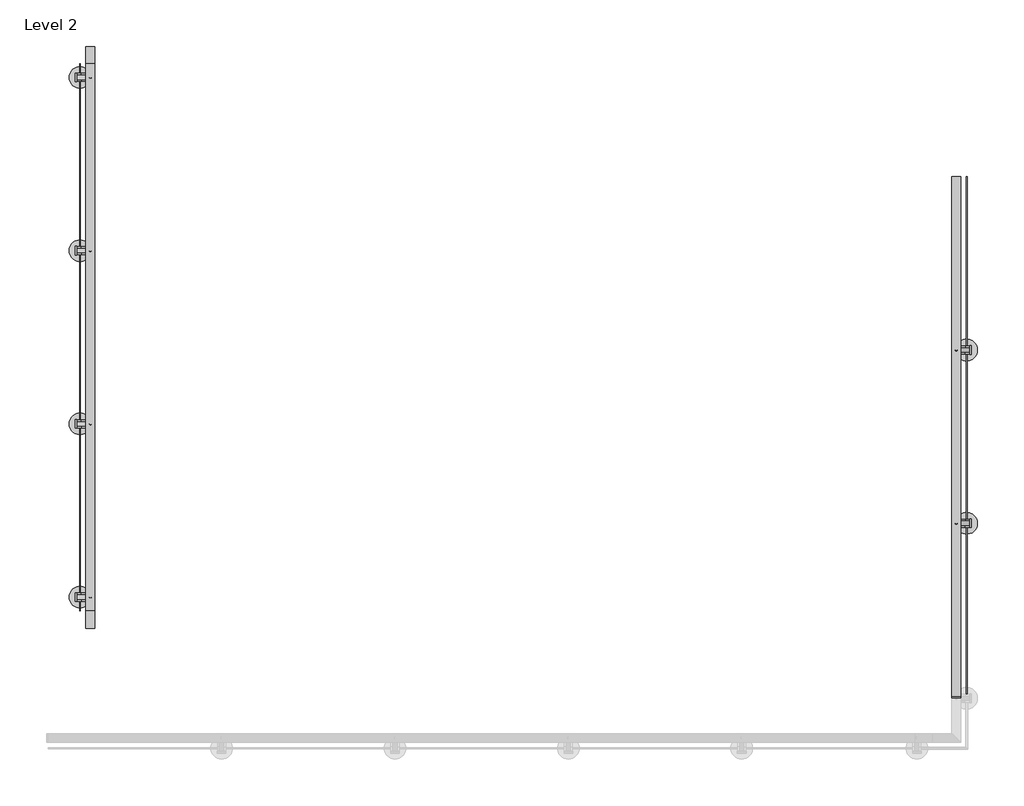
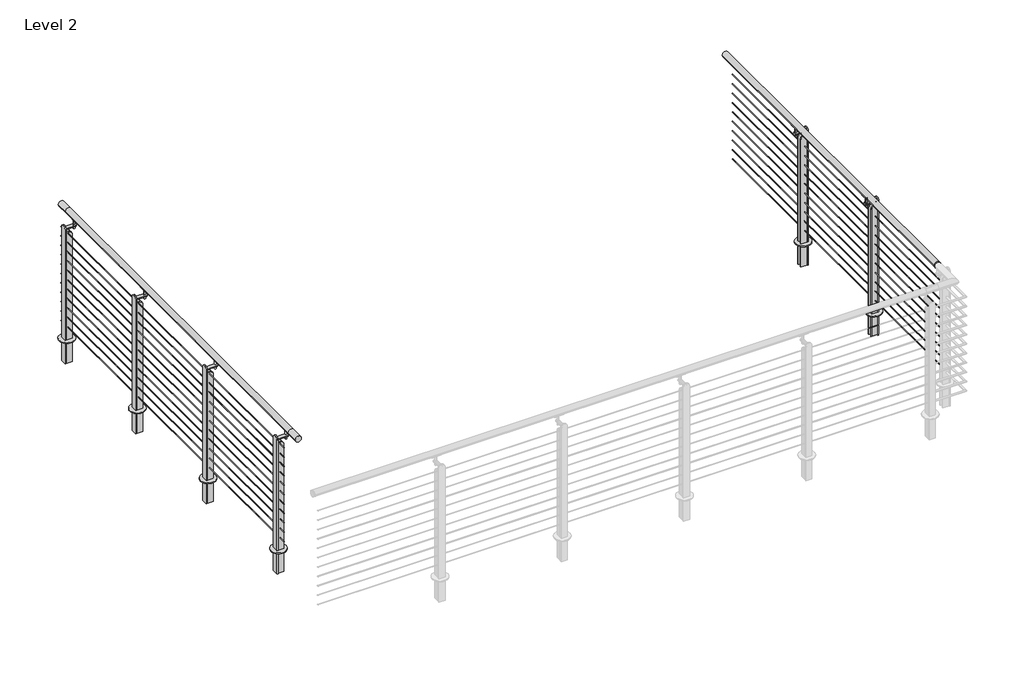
# One storey, part 9 of 12: 2 railings.
"""IFC4 building model written with IfcOpenShell, lengths in millimetres."""

from ifc_helpers import new_model, si_unit, point, frame, frame_2d, origin, place, context, project, spatial, polyline, circle_curve, trimmed, segment, composite_curve, outline, extrude, element, save
from ifc_brep_helpers import plane_surface, cylinder_surface, advanced_brep

model = new_model("IFC4")

# Units and contexts
model_context = context("Model", 3, world=origin())
ifc_project = project(units=[si_unit("LENGTHUNIT", "METRE", prefix="MILLI")], contexts=[model_context])

# Site, building, storey
site = spatial("IfcSite", under=ifc_project)
building = spatial("IfcBuilding", under=site)
storey = spatial("IfcBuildingStorey", under=building, Name="Level 2", Elevation=3048.0)

# Railings
placement = place(None, origin())
element("IfcRailing", 1, ObjectType="VIVA-TEE-Cable-Core Mount-Straight", at=placement, inside=storey, context=model_context, shape_type="SolidModel", body=[
    advanced_brep(
    [(-8848.9177073, -17567.8040223, 4102.1), (-8899.7177073, -17567.8040223, 4102.1), (-8848.9177073, -17466.2040223, 4102.1), (-8899.7177073, -17466.2040223, 4102.1), (-8848.9177073, -14258.7426165, 4102.1), (-8899.7177073, -14258.7426165, 4102.1), (-8848.9177073, -14157.1426165, 4102.1), (-8899.7177073, -14157.1426165, 4102.1)],
    [
        (0, 1, circle_curve(frame((-8874.3177073, -17567.8040223, 4102.1), z_axis=(0.0, -1.0, 0.0), x_axis=(-1.0, 0.0, 0.0)), 25.4)),
        (1, 0, circle_curve(frame((-8874.3177073, -17567.8040223, 4102.1), z_axis=(0.0, -1.0, 0.0), x_axis=(-1.0, 0.0, 0.0)), 25.4)),
        (0, 2),
        (2, 3, circle_curve(frame((-8874.3177073, -17466.2040223, 4102.1), z_axis=(0.0, -1.0, 0.0), x_axis=(-1.0, 0.0, 0.0)), 25.4)),
        (3, 1),
        (3, 2, circle_curve(frame((-8874.3177073, -17466.2040223, 4102.1), z_axis=(0.0, -1.0, 0.0), x_axis=(-1.0, 0.0, 0.0)), 25.4)),
        (2, 4),
        (4, 5, circle_curve(frame((-8874.3177073, -14258.7426165, 4102.1), z_axis=(0.0, -1.0, 0.0), x_axis=(-1.0, 0.0, 0.0)), 25.4)),
        (5, 3),
        (5, 4, circle_curve(frame((-8874.3177073, -14258.7426165, 4102.1), z_axis=(0.0, -1.0, 0.0), x_axis=(-1.0, 0.0, 0.0)), 25.4)),
        (6, 7, circle_curve(frame((-8874.3177073, -14157.1426165, 4102.1), z_axis=(0.0, 1.0, 0.0), x_axis=(-1.0, 0.0, 0.0)), 25.4)),
        (7, 6, circle_curve(frame((-8874.3177073, -14157.1426165, 4102.1), z_axis=(0.0, 1.0, 0.0), x_axis=(-1.0, 0.0, 0.0)), 25.4)),
        (4, 6),
        (7, 5),
    ],
    [
        plane_surface(frame((-8874.3177073, -17567.8040223, 4127.5), z_axis=(0.0, -1.0, 0.0), x_axis=(0.0, 0.0, 1.0))),
        cylinder_surface(frame((-8874.3177073, -17567.8040223, 4102.1), z_axis=(0.0, -1.0, 0.0), x_axis=(-1.0, 0.0, 0.0)), 25.4),
        cylinder_surface(frame((-8874.3177073, -17466.2040223, 4102.1), z_axis=(0.0, -1.0, 0.0), x_axis=(-1.0, 0.0, 0.0)), 25.4),
        plane_surface(frame((-8874.3177073, -14157.1426165, 4127.5), z_axis=(0.0, 1.0, 0.0), x_axis=(0.0, 0.0, 1.0))),
        cylinder_surface(frame((-8874.3177073, -14258.7426165, 4102.1), z_axis=(0.0, -1.0, 0.0), x_axis=(-1.0, 0.0, 0.0)), 25.4),
    ],
    [
        (0, [[1, 2]]),
        (1, [[-1, 3, 4, 5]]),
        (1, [[-2, -5, 6, -3]]),
        (2, [[-4, 7, 8, 9]]),
        (2, [[-6, -9, 10, -7]]),
        (3, [[11, 12]]),
        (4, [[-8, 13, -12, 14]]),
        (4, [[-10, -14, -11, -13]]),
    ],
),
    extrude(outline(composite_curve([segment(trimmed(circle_curve(frame_2d((3985.4124, -8934.6427073)), 2.3876), [point((3985.4124, -8932.2551073))], [point((3985.4124, -8937.0303073))], False, "CARTESIAN"), True, "CONTINUOUS"), segment(trimmed(circle_curve(frame_2d((3985.4124, -8934.6427073)), 2.3876), [point((3985.4124, -8937.0303073))], [point((3985.4124, -8932.2551073))], False, "CARTESIAN"), True, "CONTINUOUS")], self_intersect=False)), frame((0.0, -17466.2040223, 0.0), z_axis=(0.0, 1.0, 0.0), x_axis=(0.0, 0.0, 1.0)), (0.0, 0.0, 1.0), 3207.4614057),
    extrude(outline(composite_curve([segment(trimmed(circle_curve(frame_2d((3902.8624, -8934.6427073)), 2.3876), [point((3902.8624, -8932.2551073))], [point((3902.8624, -8937.0303073))], False, "CARTESIAN"), True, "CONTINUOUS"), segment(trimmed(circle_curve(frame_2d((3902.8624, -8934.6427073)), 2.3876), [point((3902.8624, -8937.0303073))], [point((3902.8624, -8932.2551073))], False, "CARTESIAN"), True, "CONTINUOUS")], self_intersect=False)), frame((0.0, -17466.2040223, 0.0), z_axis=(0.0, 1.0, 0.0), x_axis=(0.0, 0.0, 1.0)), (0.0, 0.0, 1.0), 3207.4614057),
    extrude(outline(composite_curve([segment(trimmed(circle_curve(frame_2d((3820.3124, -8934.6427073)), 2.3876), [point((3820.3124, -8932.2551073))], [point((3820.3124, -8937.0303073))], False, "CARTESIAN"), True, "CONTINUOUS"), segment(trimmed(circle_curve(frame_2d((3820.3124, -8934.6427073)), 2.3876), [point((3820.3124, -8937.0303073))], [point((3820.3124, -8932.2551073))], False, "CARTESIAN"), True, "CONTINUOUS")], self_intersect=False)), frame((0.0, -17466.2040223, 0.0), z_axis=(0.0, 1.0, 0.0), x_axis=(0.0, 0.0, 1.0)), (0.0, 0.0, 1.0), 3207.4614057),
    extrude(outline(composite_curve([segment(trimmed(circle_curve(frame_2d((3737.7624, -8934.6427073)), 2.3876), [point((3737.7624, -8932.2551073))], [point((3737.7624, -8937.0303073))], False, "CARTESIAN"), True, "CONTINUOUS"), segment(trimmed(circle_curve(frame_2d((3737.7624, -8934.6427073)), 2.3876), [point((3737.7624, -8937.0303073))], [point((3737.7624, -8932.2551073))], False, "CARTESIAN"), True, "CONTINUOUS")], self_intersect=False)), frame((0.0, -17466.2040223, 0.0), z_axis=(0.0, 1.0, 0.0), x_axis=(0.0, 0.0, 1.0)), (0.0, 0.0, 1.0), 3207.4614057),
    extrude(outline(composite_curve([segment(trimmed(circle_curve(frame_2d((3655.2124, -8934.6427073)), 2.3876), [point((3655.2124, -8932.2551073))], [point((3655.2124, -8937.0303073))], False, "CARTESIAN"), True, "CONTINUOUS"), segment(trimmed(circle_curve(frame_2d((3655.2124, -8934.6427073)), 2.3876), [point((3655.2124, -8937.0303073))], [point((3655.2124, -8932.2551073))], False, "CARTESIAN"), True, "CONTINUOUS")], self_intersect=False)), frame((0.0, -17466.2040223, 0.0), z_axis=(0.0, 1.0, 0.0), x_axis=(0.0, 0.0, 1.0)), (0.0, 0.0, 1.0), 3207.4614057),
    extrude(outline(composite_curve([segment(trimmed(circle_curve(frame_2d((3572.6624, -8934.6427073)), 2.3876), [point((3572.6624, -8932.2551073))], [point((3572.6624, -8937.0303073))], False, "CARTESIAN"), True, "CONTINUOUS"), segment(trimmed(circle_curve(frame_2d((3572.6624, -8934.6427073)), 2.3876), [point((3572.6624, -8937.0303073))], [point((3572.6624, -8932.2551073))], False, "CARTESIAN"), True, "CONTINUOUS")], self_intersect=False)), frame((0.0, -17466.2040223, 0.0), z_axis=(0.0, 1.0, 0.0), x_axis=(0.0, 0.0, 1.0)), (0.0, 0.0, 1.0), 3207.4614057),
    extrude(outline(composite_curve([segment(trimmed(circle_curve(frame_2d((3490.1124, -8934.6427073)), 2.3876), [point((3490.1124, -8932.2551073))], [point((3490.1124, -8937.0303073))], False, "CARTESIAN"), True, "CONTINUOUS"), segment(trimmed(circle_curve(frame_2d((3490.1124, -8934.6427073)), 2.3876), [point((3490.1124, -8937.0303073))], [point((3490.1124, -8932.2551073))], False, "CARTESIAN"), True, "CONTINUOUS")], self_intersect=False)), frame((0.0, -17466.2040223, 0.0), z_axis=(0.0, 1.0, 0.0), x_axis=(0.0, 0.0, 1.0)), (0.0, 0.0, 1.0), 3207.4614057),
    extrude(outline(composite_curve([segment(trimmed(circle_curve(frame_2d((3407.5624, -8934.6427073)), 2.3876), [point((3407.5624, -8932.2551073))], [point((3407.5624, -8937.0303073))], False, "CARTESIAN"), True, "CONTINUOUS"), segment(trimmed(circle_curve(frame_2d((3407.5624, -8934.6427073)), 2.3876), [point((3407.5624, -8937.0303073))], [point((3407.5624, -8932.2551073))], False, "CARTESIAN"), True, "CONTINUOUS")], self_intersect=False)), frame((0.0, -17466.2040223, 0.0), z_axis=(0.0, 1.0, 0.0), x_axis=(0.0, 0.0, 1.0)), (0.0, 0.0, 1.0), 3207.4614057),
    extrude(outline(composite_curve([segment(trimmed(circle_curve(frame_2d((3325.0124, -8934.6427073)), 2.3876), [point((3325.0124, -8932.2551073))], [point((3325.0124, -8937.0303073))], False, "CARTESIAN"), True, "CONTINUOUS"), segment(trimmed(circle_curve(frame_2d((3325.0124, -8934.6427073)), 2.3876), [point((3325.0124, -8937.0303073))], [point((3325.0124, -8932.2551073))], False, "CARTESIAN"), True, "CONTINUOUS")], self_intersect=False)), frame((0.0, -17466.2040223, 0.0), z_axis=(0.0, 1.0, 0.0), x_axis=(0.0, 0.0, 1.0)), (0.0, 0.0, 1.0), 3207.4614057),
    extrude(outline(composite_curve([segment(trimmed(circle_curve(frame_2d((3242.4624, -8934.6427073)), 2.3876), [point((3242.4624, -8932.2551073))], [point((3242.4624, -8937.0303073))], False, "CARTESIAN"), True, "CONTINUOUS"), segment(trimmed(circle_curve(frame_2d((3242.4624, -8934.6427073)), 2.3876), [point((3242.4624, -8937.0303073))], [point((3242.4624, -8932.2551073))], False, "CARTESIAN"), True, "CONTINUOUS")], self_intersect=False)), frame((0.0, -17466.2040223, 0.0), z_axis=(0.0, 1.0, 0.0), x_axis=(0.0, 0.0, 1.0)), (0.0, 0.0, 1.0), 3207.4614057),
    extrude(outline(composite_curve([segment(trimmed(circle_curve(frame_2d((3159.9124, -8934.6427073)), 2.3876), [point((3159.9124, -8932.2551073))], [point((3159.9124, -8937.0303073))], False, "CARTESIAN"), True, "CONTINUOUS"), segment(trimmed(circle_curve(frame_2d((3159.9124, -8934.6427073)), 2.3876), [point((3159.9124, -8937.0303073))], [point((3159.9124, -8932.2551073))], False, "CARTESIAN"), True, "CONTINUOUS")], self_intersect=False)), frame((0.0, -17466.2040223, 0.0), z_axis=(0.0, 1.0, 0.0), x_axis=(0.0, 0.0, 1.0)), (0.0, 0.0, 1.0), 3207.4614057),
    extrude(outline(composite_curve([segment(trimmed(circle_curve(frame_2d((0.0, -7.0)), 7.0), [point((0.0, -14.0))], [point((0.0, 0.0))], False, "CARTESIAN"), True, "CONTINUOUS"), segment(trimmed(circle_curve(frame_2d((0.0, -7.0)), 7.0), [point((0.0, 0.0))], [point((0.0, -14.0))], False, "CARTESIAN"), True, "CONTINUOUS")], self_intersect=False)), frame((-8881.0275611, -14338.3996095, 3997.1832524), z_axis=(0.0, 0.004253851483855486, 0.9999909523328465), x_axis=(0.0, 0.9999909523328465, -0.004253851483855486)), (0.0, 0.0, 1.0), 75.97),
    extrude(outline(composite_curve([segment(polyline([(4081.7916463, -8887.4157453), (4080.7742593, -8888.4421349)]), True, "CONTINUOUS"), segment(trimmed(circle_curve(frame_2d((4079.7089374, -8887.3861571)), 1.5), [point((4080.7742593, -8888.4421349))], [point((4078.5780156, -8888.3715585))], False, "CARTESIAN"), True, "CONTINUOUS"), segment(trimmed(circle_curve(frame_2d((4095.2025651, -8873.8861571)), 22.05), [point((4078.5780156, -8888.3715585))], [point((4078.5780156, -8859.4007556))], False, "CARTESIAN"), True, "CONTINUOUS"), segment(trimmed(circle_curve(frame_2d((4079.7089374, -8860.3861571)), 1.5), [point((4078.5780156, -8859.4007556))], [point((4080.7742593, -8859.3301792))], False, "CARTESIAN"), True, "CONTINUOUS"), segment(polyline([(4080.7742593, -8859.3301792), (4081.7916463, -8860.3565688)]), True, "CONTINUOUS"), segment(trimmed(circle_curve(frame_2d((4095.2025651, -8873.8861571)), 19.05), [point((4081.7916463, -8860.3565688))], [point((4081.7916463, -8887.4157453))], True, "CARTESIAN"), True, "CONTINUOUS")], self_intersect=False)), frame((0.0, -14373.9380837, 0.0), z_axis=(0.0, 1.0, 0.0), x_axis=(0.0, 0.0, 1.0)), (0.0, 0.0, 1.0), 74.5229187),
    extrude(outline(composite_curve([segment(trimmed(circle_curve(frame_2d((-14338.195279, 4024.1259188)), 12.5), [point((-14350.695279, 4024.1259188))], [point((-14325.695279, 4024.1259188))], False, "CARTESIAN"), True, "CONTINUOUS"), segment(trimmed(circle_curve(frame_2d((-14338.195279, 4024.1259188)), 12.5), [point((-14325.695279, 4024.1259188))], [point((-14350.695279, 4024.1259188))], False, "CARTESIAN"), True, "CONTINUOUS")], self_intersect=False)), frame((-8953.793547, 0.0, 0.0), z_axis=(1.0, 0.0, 0.0), x_axis=(0.0, 1.0, 0.0)), (0.0, 0.0, 1.0), 92.423),
    extrude(outline(composite_curve([segment(trimmed(circle_curve(frame_2d((-8934.6427073, -14338.0764444)), 63.5), [point((-8998.1427073, -14338.0764444))], [point((-8871.1427073, -14338.0764444))], False, "CARTESIAN"), True, "CONTINUOUS"), segment(trimmed(circle_curve(frame_2d((-8934.6427073, -14338.0764444)), 63.5), [point((-8871.1427073, -14338.0764444))], [point((-8998.1427073, -14338.0764444))], False, "CARTESIAN"), True, "CONTINUOUS")], self_intersect=False)), frame((0.0, 0.0, 3048.0), z_axis=(0.0, 0.0, 1.0), x_axis=(1.0, 0.0, 0.0)), (0.0, 0.0, 1.0), 6.35),
    extrude(outline(composite_curve([segment(polyline([(3997.0075, -8927.6272558), (3997.0075, -8953.6927073), (2851.15, -8953.6927073), (2851.15, -8902.8622558), (3972.2425, -8902.8622558)]), True, "CONTINUOUS"), segment(trimmed(circle_curve(frame_2d((3972.2425, -8927.6272558)), 24.765), [point((3972.2425, -8902.8622558))], [point((3997.0075, -8927.6272558))], False, "CARTESIAN"), True, "CONTINUOUS")], self_intersect=False)), frame((0.0, -14324.0729448, 0.0), z_axis=(0.0, 1.0, 0.0), x_axis=(0.0, 0.0, 1.0)), (0.0, 0.0, 1.0), 9.525),
    extrude(outline(composite_curve([segment(polyline([(-14312.6764444, 2851.15), (-14363.4764444, 2851.15), (-14363.4764444, 4027.17)]), True, "CONTINUOUS"), segment(trimmed(circle_curve(frame_2d((-14338.0764444, 4027.17)), 25.4), [point((-14363.4764444, 4027.17))], [point((-14312.6764444, 4027.17))], False, "CARTESIAN"), True, "CONTINUOUS"), segment(polyline([(-14312.6764444, 4027.17), (-14312.6764444, 2851.15)]), True, "CONTINUOUS")], self_intersect=False)), frame((-8963.2177073, 0.0, 0.0), z_axis=(1.0, 0.0, 0.0), x_axis=(0.0, 1.0, 0.0)), (0.0, 0.0, 1.0), 9.525),
    extrude(outline(composite_curve([segment(polyline([(3997.0075, -8927.6272558), (3997.0075, -8953.6927073), (2851.15, -8953.6927073), (2851.15, -8902.8622558), (3972.2425, -8902.8622558)]), True, "CONTINUOUS"), segment(trimmed(circle_curve(frame_2d((3972.2425, -8927.6272558)), 24.765), [point((3972.2425, -8902.8622558))], [point((3997.0075, -8927.6272558))], False, "CARTESIAN"), True, "CONTINUOUS")], self_intersect=False)), frame((0.0, -14361.604944, 0.0), z_axis=(0.0, 1.0, 0.0), x_axis=(0.0, 0.0, 1.0)), (0.0, 0.0, 1.0), 9.525),
    extrude(outline(composite_curve([segment(trimmed(circle_curve(frame_2d((0.0, -7.0)), 7.0), [point((0.0, -14.0))], [point((0.0, 0.0))], False, "CARTESIAN"), True, "CONTINUOUS"), segment(trimmed(circle_curve(frame_2d((0.0, -7.0)), 7.0), [point((0.0, 0.0))], [point((0.0, -14.0))], False, "CARTESIAN"), True, "CONTINUOUS")], self_intersect=False)), frame((-8881.0275611, -15354.3996095, 3997.1832524), z_axis=(0.0, 0.004253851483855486, 0.9999909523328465), x_axis=(0.0, 0.9999909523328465, -0.004253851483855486)), (0.0, 0.0, 1.0), 75.97),
    extrude(outline(composite_curve([segment(polyline([(4081.7916463, -8887.4157453), (4080.7742593, -8888.4421349)]), True, "CONTINUOUS"), segment(trimmed(circle_curve(frame_2d((4079.7089374, -8887.3861571)), 1.5), [point((4080.7742593, -8888.4421349))], [point((4078.5780156, -8888.3715585))], False, "CARTESIAN"), True, "CONTINUOUS"), segment(trimmed(circle_curve(frame_2d((4095.2025651, -8873.8861571)), 22.05), [point((4078.5780156, -8888.3715585))], [point((4078.5780156, -8859.4007556))], False, "CARTESIAN"), True, "CONTINUOUS"), segment(trimmed(circle_curve(frame_2d((4079.7089374, -8860.3861571)), 1.5), [point((4078.5780156, -8859.4007556))], [point((4080.7742593, -8859.3301792))], False, "CARTESIAN"), True, "CONTINUOUS"), segment(polyline([(4080.7742593, -8859.3301792), (4081.7916463, -8860.3565688)]), True, "CONTINUOUS"), segment(trimmed(circle_curve(frame_2d((4095.2025651, -8873.8861571)), 19.05), [point((4081.7916463, -8860.3565688))], [point((4081.7916463, -8887.4157453))], True, "CARTESIAN"), True, "CONTINUOUS")], self_intersect=False)), frame((0.0, -15389.9380837, 0.0), z_axis=(0.0, 1.0, 0.0), x_axis=(0.0, 0.0, 1.0)), (0.0, 0.0, 1.0), 74.5229187),
    extrude(outline(composite_curve([segment(trimmed(circle_curve(frame_2d((-15354.195279, 4024.1259188)), 12.5), [point((-15366.695279, 4024.1259188))], [point((-15341.695279, 4024.1259188))], False, "CARTESIAN"), True, "CONTINUOUS"), segment(trimmed(circle_curve(frame_2d((-15354.195279, 4024.1259188)), 12.5), [point((-15341.695279, 4024.1259188))], [point((-15366.695279, 4024.1259188))], False, "CARTESIAN"), True, "CONTINUOUS")], self_intersect=False)), frame((-8953.793547, 0.0, 0.0), z_axis=(1.0, 0.0, 0.0), x_axis=(0.0, 1.0, 0.0)), (0.0, 0.0, 1.0), 92.423),
    extrude(outline(composite_curve([segment(trimmed(circle_curve(frame_2d((-8934.6427073, -15354.0764444)), 63.5), [point((-8998.1427073, -15354.0764444))], [point((-8871.1427073, -15354.0764444))], False, "CARTESIAN"), True, "CONTINUOUS"), segment(trimmed(circle_curve(frame_2d((-8934.6427073, -15354.0764444)), 63.5), [point((-8871.1427073, -15354.0764444))], [point((-8998.1427073, -15354.0764444))], False, "CARTESIAN"), True, "CONTINUOUS")], self_intersect=False)), frame((0.0, 0.0, 3048.0), z_axis=(0.0, 0.0, 1.0), x_axis=(1.0, 0.0, 0.0)), (0.0, 0.0, 1.0), 6.35),
    extrude(outline(composite_curve([segment(polyline([(3997.0075, -8927.6272558), (3997.0075, -8953.6927073), (2851.15, -8953.6927073), (2851.15, -8902.8622558), (3972.2425, -8902.8622558)]), True, "CONTINUOUS"), segment(trimmed(circle_curve(frame_2d((3972.2425, -8927.6272558)), 24.765), [point((3972.2425, -8902.8622558))], [point((3997.0075, -8927.6272558))], False, "CARTESIAN"), True, "CONTINUOUS")], self_intersect=False)), frame((0.0, -15340.0729448, 0.0), z_axis=(0.0, 1.0, 0.0), x_axis=(0.0, 0.0, 1.0)), (0.0, 0.0, 1.0), 9.525),
    extrude(outline(composite_curve([segment(polyline([(-15328.6764444, 2851.15), (-15379.4764444, 2851.15), (-15379.4764444, 4027.17)]), True, "CONTINUOUS"), segment(trimmed(circle_curve(frame_2d((-15354.0764444, 4027.17)), 25.4), [point((-15379.4764444, 4027.17))], [point((-15328.6764444, 4027.17))], False, "CARTESIAN"), True, "CONTINUOUS"), segment(polyline([(-15328.6764444, 4027.17), (-15328.6764444, 2851.15)]), True, "CONTINUOUS")], self_intersect=False)), frame((-8963.2177073, 0.0, 0.0), z_axis=(1.0, 0.0, 0.0), x_axis=(0.0, 1.0, 0.0)), (0.0, 0.0, 1.0), 9.525),
    extrude(outline(composite_curve([segment(polyline([(3997.0075, -8927.6272558), (3997.0075, -8953.6927073), (2851.15, -8953.6927073), (2851.15, -8902.8622558), (3972.2425, -8902.8622558)]), True, "CONTINUOUS"), segment(trimmed(circle_curve(frame_2d((3972.2425, -8927.6272558)), 24.765), [point((3972.2425, -8902.8622558))], [point((3997.0075, -8927.6272558))], False, "CARTESIAN"), True, "CONTINUOUS")], self_intersect=False)), frame((0.0, -15377.604944, 0.0), z_axis=(0.0, 1.0, 0.0), x_axis=(0.0, 0.0, 1.0)), (0.0, 0.0, 1.0), 9.525),
    extrude(outline(composite_curve([segment(trimmed(circle_curve(frame_2d((0.0, -7.0)), 7.0), [point((0.0, -14.0))], [point((0.0, 0.0))], False, "CARTESIAN"), True, "CONTINUOUS"), segment(trimmed(circle_curve(frame_2d((0.0, -7.0)), 7.0), [point((0.0, 0.0))], [point((0.0, -14.0))], False, "CARTESIAN"), True, "CONTINUOUS")], self_intersect=False)), frame((-8881.0275611, -16370.3996095, 3997.1832524), z_axis=(0.0, 0.004253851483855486, 0.9999909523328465), x_axis=(0.0, 0.9999909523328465, -0.004253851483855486)), (0.0, 0.0, 1.0), 75.97),
    extrude(outline(composite_curve([segment(polyline([(4081.7916463, -8887.4157453), (4080.7742593, -8888.4421349)]), True, "CONTINUOUS"), segment(trimmed(circle_curve(frame_2d((4079.7089374, -8887.3861571)), 1.5), [point((4080.7742593, -8888.4421349))], [point((4078.5780156, -8888.3715585))], False, "CARTESIAN"), True, "CONTINUOUS"), segment(trimmed(circle_curve(frame_2d((4095.2025651, -8873.8861571)), 22.05), [point((4078.5780156, -8888.3715585))], [point((4078.5780156, -8859.4007556))], False, "CARTESIAN"), True, "CONTINUOUS"), segment(trimmed(circle_curve(frame_2d((4079.7089374, -8860.3861571)), 1.5), [point((4078.5780156, -8859.4007556))], [point((4080.7742593, -8859.3301792))], False, "CARTESIAN"), True, "CONTINUOUS"), segment(polyline([(4080.7742593, -8859.3301792), (4081.7916463, -8860.3565688)]), True, "CONTINUOUS"), segment(trimmed(circle_curve(frame_2d((4095.2025651, -8873.8861571)), 19.05), [point((4081.7916463, -8860.3565688))], [point((4081.7916463, -8887.4157453))], True, "CARTESIAN"), True, "CONTINUOUS")], self_intersect=False)), frame((0.0, -16405.9380837, 0.0), z_axis=(0.0, 1.0, 0.0), x_axis=(0.0, 0.0, 1.0)), (0.0, 0.0, 1.0), 74.5229187),
    extrude(outline(composite_curve([segment(trimmed(circle_curve(frame_2d((-16370.195279, 4024.1259188)), 12.5), [point((-16382.695279, 4024.1259188))], [point((-16357.695279, 4024.1259188))], False, "CARTESIAN"), True, "CONTINUOUS"), segment(trimmed(circle_curve(frame_2d((-16370.195279, 4024.1259188)), 12.5), [point((-16357.695279, 4024.1259188))], [point((-16382.695279, 4024.1259188))], False, "CARTESIAN"), True, "CONTINUOUS")], self_intersect=False)), frame((-8953.793547, 0.0, 0.0), z_axis=(1.0, 0.0, 0.0), x_axis=(0.0, 1.0, 0.0)), (0.0, 0.0, 1.0), 92.423),
    extrude(outline(composite_curve([segment(trimmed(circle_curve(frame_2d((-8934.6427073, -16370.0764444)), 63.5), [point((-8998.1427073, -16370.0764444))], [point((-8871.1427073, -16370.0764444))], False, "CARTESIAN"), True, "CONTINUOUS"), segment(trimmed(circle_curve(frame_2d((-8934.6427073, -16370.0764444)), 63.5), [point((-8871.1427073, -16370.0764444))], [point((-8998.1427073, -16370.0764444))], False, "CARTESIAN"), True, "CONTINUOUS")], self_intersect=False)), frame((0.0, 0.0, 3048.0), z_axis=(0.0, 0.0, 1.0), x_axis=(1.0, 0.0, 0.0)), (0.0, 0.0, 1.0), 6.35),
    extrude(outline(composite_curve([segment(polyline([(3997.0075, -8927.6272558), (3997.0075, -8953.6927073), (2851.15, -8953.6927073), (2851.15, -8902.8622558), (3972.2425, -8902.8622558)]), True, "CONTINUOUS"), segment(trimmed(circle_curve(frame_2d((3972.2425, -8927.6272558)), 24.765), [point((3972.2425, -8902.8622558))], [point((3997.0075, -8927.6272558))], False, "CARTESIAN"), True, "CONTINUOUS")], self_intersect=False)), frame((0.0, -16356.0729448, 0.0), z_axis=(0.0, 1.0, 0.0), x_axis=(0.0, 0.0, 1.0)), (0.0, 0.0, 1.0), 9.525),
    extrude(outline(composite_curve([segment(polyline([(-16344.6764444, 2851.15), (-16395.4764444, 2851.15), (-16395.4764444, 4027.17)]), True, "CONTINUOUS"), segment(trimmed(circle_curve(frame_2d((-16370.0764444, 4027.17)), 25.4), [point((-16395.4764444, 4027.17))], [point((-16344.6764444, 4027.17))], False, "CARTESIAN"), True, "CONTINUOUS"), segment(polyline([(-16344.6764444, 4027.17), (-16344.6764444, 2851.15)]), True, "CONTINUOUS")], self_intersect=False)), frame((-8963.2177073, 0.0, 0.0), z_axis=(1.0, 0.0, 0.0), x_axis=(0.0, 1.0, 0.0)), (0.0, 0.0, 1.0), 9.525),
    extrude(outline(composite_curve([segment(polyline([(3997.0075, -8927.6272558), (3997.0075, -8953.6927073), (2851.15, -8953.6927073), (2851.15, -8902.8622558), (3972.2425, -8902.8622558)]), True, "CONTINUOUS"), segment(trimmed(circle_curve(frame_2d((3972.2425, -8927.6272558)), 24.765), [point((3972.2425, -8902.8622558))], [point((3997.0075, -8927.6272558))], False, "CARTESIAN"), True, "CONTINUOUS")], self_intersect=False)), frame((0.0, -16393.604944, 0.0), z_axis=(0.0, 1.0, 0.0), x_axis=(0.0, 0.0, 1.0)), (0.0, 0.0, 1.0), 9.525),
    extrude(outline(composite_curve([segment(trimmed(circle_curve(frame_2d((0.0, -7.0)), 7.0), [point((0.0, -14.0))], [point((0.0, 0.0))], False, "CARTESIAN"), True, "CONTINUOUS"), segment(trimmed(circle_curve(frame_2d((0.0, -7.0)), 7.0), [point((0.0, 0.0))], [point((0.0, -14.0))], False, "CARTESIAN"), True, "CONTINUOUS")], self_intersect=False)), frame((-8881.0275611, -17386.3996095, 3997.1832524), z_axis=(0.0, 0.004253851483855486, 0.9999909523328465), x_axis=(0.0, 0.9999909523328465, -0.004253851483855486)), (0.0, 0.0, 1.0), 75.97),
    extrude(outline(composite_curve([segment(polyline([(4081.7916463, -8887.4157453), (4080.7742593, -8888.4421349)]), True, "CONTINUOUS"), segment(trimmed(circle_curve(frame_2d((4079.7089374, -8887.3861571)), 1.5), [point((4080.7742593, -8888.4421349))], [point((4078.5780156, -8888.3715585))], False, "CARTESIAN"), True, "CONTINUOUS"), segment(trimmed(circle_curve(frame_2d((4095.2025651, -8873.8861571)), 22.05), [point((4078.5780156, -8888.3715585))], [point((4078.5780156, -8859.4007556))], False, "CARTESIAN"), True, "CONTINUOUS"), segment(trimmed(circle_curve(frame_2d((4079.7089374, -8860.3861571)), 1.5), [point((4078.5780156, -8859.4007556))], [point((4080.7742593, -8859.3301792))], False, "CARTESIAN"), True, "CONTINUOUS"), segment(polyline([(4080.7742593, -8859.3301792), (4081.7916463, -8860.3565688)]), True, "CONTINUOUS"), segment(trimmed(circle_curve(frame_2d((4095.2025651, -8873.8861571)), 19.05), [point((4081.7916463, -8860.3565688))], [point((4081.7916463, -8887.4157453))], True, "CARTESIAN"), True, "CONTINUOUS")], self_intersect=False)), frame((0.0, -17421.9380837, 0.0), z_axis=(0.0, 1.0, 0.0), x_axis=(0.0, 0.0, 1.0)), (0.0, 0.0, 1.0), 74.5229187),
    extrude(outline(composite_curve([segment(trimmed(circle_curve(frame_2d((-17386.195279, 4024.1259188)), 12.5), [point((-17398.695279, 4024.1259188))], [point((-17373.695279, 4024.1259188))], False, "CARTESIAN"), True, "CONTINUOUS"), segment(trimmed(circle_curve(frame_2d((-17386.195279, 4024.1259188)), 12.5), [point((-17373.695279, 4024.1259188))], [point((-17398.695279, 4024.1259188))], False, "CARTESIAN"), True, "CONTINUOUS")], self_intersect=False)), frame((-8953.793547, 0.0, 0.0), z_axis=(1.0, 0.0, 0.0), x_axis=(0.0, 1.0, 0.0)), (0.0, 0.0, 1.0), 92.423),
    extrude(outline(composite_curve([segment(trimmed(circle_curve(frame_2d((-8934.6427073, -17386.0764444)), 63.5), [point((-8998.1427073, -17386.0764444))], [point((-8871.1427073, -17386.0764444))], False, "CARTESIAN"), True, "CONTINUOUS"), segment(trimmed(circle_curve(frame_2d((-8934.6427073, -17386.0764444)), 63.5), [point((-8871.1427073, -17386.0764444))], [point((-8998.1427073, -17386.0764444))], False, "CARTESIAN"), True, "CONTINUOUS")], self_intersect=False)), frame((0.0, 0.0, 3048.0), z_axis=(0.0, 0.0, 1.0), x_axis=(1.0, 0.0, 0.0)), (0.0, 0.0, 1.0), 6.35),
    extrude(outline(composite_curve([segment(polyline([(3997.0075, -8927.6272558), (3997.0075, -8953.6927073), (2851.15, -8953.6927073), (2851.15, -8902.8622558), (3972.2425, -8902.8622558)]), True, "CONTINUOUS"), segment(trimmed(circle_curve(frame_2d((3972.2425, -8927.6272558)), 24.765), [point((3972.2425, -8902.8622558))], [point((3997.0075, -8927.6272558))], False, "CARTESIAN"), True, "CONTINUOUS")], self_intersect=False)), frame((0.0, -17372.0729448, 0.0), z_axis=(0.0, 1.0, 0.0), x_axis=(0.0, 0.0, 1.0)), (0.0, 0.0, 1.0), 9.525),
    extrude(outline(composite_curve([segment(polyline([(-17360.6764444, 2851.15), (-17411.4764444, 2851.15), (-17411.4764444, 4027.17)]), True, "CONTINUOUS"), segment(trimmed(circle_curve(frame_2d((-17386.0764444, 4027.17)), 25.4), [point((-17411.4764444, 4027.17))], [point((-17360.6764444, 4027.17))], False, "CARTESIAN"), True, "CONTINUOUS"), segment(polyline([(-17360.6764444, 4027.17), (-17360.6764444, 2851.15)]), True, "CONTINUOUS")], self_intersect=False)), frame((-8963.2177073, 0.0, 0.0), z_axis=(1.0, 0.0, 0.0), x_axis=(0.0, 1.0, 0.0)), (0.0, 0.0, 1.0), 9.525),
    extrude(outline(composite_curve([segment(polyline([(3997.0075, -8927.6272558), (3997.0075, -8953.6927073), (2851.15, -8953.6927073), (2851.15, -8902.8622558), (3972.2425, -8902.8622558)]), True, "CONTINUOUS"), segment(trimmed(circle_curve(frame_2d((3972.2425, -8927.6272558)), 24.765), [point((3972.2425, -8902.8622558))], [point((3997.0075, -8927.6272558))], False, "CARTESIAN"), True, "CONTINUOUS")], self_intersect=False)), frame((0.0, -17409.604944, 0.0), z_axis=(0.0, 1.0, 0.0), x_axis=(0.0, 0.0, 1.0)), (0.0, 0.0, 1.0), 9.525),
])
element("IfcRailing", 2, ObjectType="VIVA-TEE-Cable-Core Mount-Straight", at=placement, inside=storey, context=model_context, shape_type="SolidModel", body=[
    advanced_brep(
    [(-3773.5247163, -17979.8426165, 4102.1), (-3824.3247163, -17979.8426165, 4102.1), (-3773.5247163, -17969.410992, 4102.1), (-3824.3247163, -17969.410992, 4102.1), (-3773.5247163, -14921.410992, 4102.1), (-3824.3247163, -14921.410992, 4102.1)],
    [
        (0, 1, circle_curve(frame((-3798.9247163, -17979.8426165, 4102.1), z_axis=(0.0, -1.0, 0.0), x_axis=(-1.0, 0.0, 0.0)), 25.4)),
        (1, 0, circle_curve(frame((-3798.9247163, -17979.8426165, 4102.1), z_axis=(0.0, -1.0, 0.0), x_axis=(-1.0, 0.0, 0.0)), 25.4)),
        (0, 2),
        (2, 3, circle_curve(frame((-3798.9247163, -17969.410992, 4102.1), z_axis=(0.0, -1.0, 0.0), x_axis=(-1.0, 0.0, 0.0)), 25.4)),
        (3, 1),
        (3, 2, circle_curve(frame((-3798.9247163, -17969.410992, 4102.1), z_axis=(0.0, -1.0, 0.0), x_axis=(-1.0, 0.0, 0.0)), 25.4)),
        (4, 5, circle_curve(frame((-3798.9247163, -14921.410992, 4102.1), z_axis=(0.0, 1.0, 0.0), x_axis=(-1.0, 0.0, 0.0)), 25.4)),
        (5, 4, circle_curve(frame((-3798.9247163, -14921.410992, 4102.1), z_axis=(0.0, 1.0, 0.0), x_axis=(-1.0, 0.0, 0.0)), 25.4)),
        (2, 4),
        (5, 3),
    ],
    [
        plane_surface(frame((-3798.9247163, -17979.8426165, 4127.5), z_axis=(0.0, -1.0, 0.0), x_axis=(0.0, 0.0, 1.0))),
        cylinder_surface(frame((-3798.9247163, -17979.8426165, 4102.1), z_axis=(0.0, -1.0, 0.0), x_axis=(-1.0, 0.0, 0.0)), 25.4),
        plane_surface(frame((-3798.9247163, -14921.410992, 4127.5), z_axis=(0.0, 1.0, 0.0), x_axis=(0.0, 0.0, 1.0))),
        cylinder_surface(frame((-3798.9247163, -17969.410992, 4102.1), z_axis=(0.0, -1.0, 0.0), x_axis=(-1.0, 0.0, 0.0)), 25.4),
    ],
    [
        (0, [[1, 2]]),
        (1, [[-1, 3, 4, 5]]),
        (1, [[-2, -5, 6, -3]]),
        (2, [[7, 8]]),
        (3, [[-4, 9, -8, 10]]),
        (3, [[-6, -10, -7, -9]]),
    ],
),
    extrude(outline(composite_curve([segment(trimmed(circle_curve(frame_2d((3985.4124, -3738.5997163)), 2.3876), [point((3985.4124, -3740.9873163))], [point((3985.4124, -3736.2121163))], False, "CARTESIAN"), True, "CONTINUOUS"), segment(trimmed(circle_curve(frame_2d((3985.4124, -3738.5997163)), 2.3876), [point((3985.4124, -3736.2121163))], [point((3985.4124, -3740.9873163))], False, "CARTESIAN"), True, "CONTINUOUS")], self_intersect=False)), frame((0.0, -17969.410992, 0.0), z_axis=(0.0, 1.0, 0.0), x_axis=(0.0, 0.0, 1.0)), (0.0, 0.0, 1.0), 3048.0),
    extrude(outline(composite_curve([segment(trimmed(circle_curve(frame_2d((3902.8624, -3738.5997163)), 2.3876), [point((3902.8624, -3740.9873163))], [point((3902.8624, -3736.2121163))], False, "CARTESIAN"), True, "CONTINUOUS"), segment(trimmed(circle_curve(frame_2d((3902.8624, -3738.5997163)), 2.3876), [point((3902.8624, -3736.2121163))], [point((3902.8624, -3740.9873163))], False, "CARTESIAN"), True, "CONTINUOUS")], self_intersect=False)), frame((0.0, -17969.410992, 0.0), z_axis=(0.0, 1.0, 0.0), x_axis=(0.0, 0.0, 1.0)), (0.0, 0.0, 1.0), 3048.0),
    extrude(outline(composite_curve([segment(trimmed(circle_curve(frame_2d((3820.3124, -3738.5997163)), 2.3876), [point((3820.3124, -3740.9873163))], [point((3820.3124, -3736.2121163))], False, "CARTESIAN"), True, "CONTINUOUS"), segment(trimmed(circle_curve(frame_2d((3820.3124, -3738.5997163)), 2.3876), [point((3820.3124, -3736.2121163))], [point((3820.3124, -3740.9873163))], False, "CARTESIAN"), True, "CONTINUOUS")], self_intersect=False)), frame((0.0, -17969.410992, 0.0), z_axis=(0.0, 1.0, 0.0), x_axis=(0.0, 0.0, 1.0)), (0.0, 0.0, 1.0), 3048.0),
    extrude(outline(composite_curve([segment(trimmed(circle_curve(frame_2d((3737.7624, -3738.5997163)), 2.3876), [point((3737.7624, -3740.9873163))], [point((3737.7624, -3736.2121163))], False, "CARTESIAN"), True, "CONTINUOUS"), segment(trimmed(circle_curve(frame_2d((3737.7624, -3738.5997163)), 2.3876), [point((3737.7624, -3736.2121163))], [point((3737.7624, -3740.9873163))], False, "CARTESIAN"), True, "CONTINUOUS")], self_intersect=False)), frame((0.0, -17969.410992, 0.0), z_axis=(0.0, 1.0, 0.0), x_axis=(0.0, 0.0, 1.0)), (0.0, 0.0, 1.0), 3048.0),
    extrude(outline(composite_curve([segment(trimmed(circle_curve(frame_2d((3655.2124, -3738.5997163)), 2.3876), [point((3655.2124, -3740.9873163))], [point((3655.2124, -3736.2121163))], False, "CARTESIAN"), True, "CONTINUOUS"), segment(trimmed(circle_curve(frame_2d((3655.2124, -3738.5997163)), 2.3876), [point((3655.2124, -3736.2121163))], [point((3655.2124, -3740.9873163))], False, "CARTESIAN"), True, "CONTINUOUS")], self_intersect=False)), frame((0.0, -17969.410992, 0.0), z_axis=(0.0, 1.0, 0.0), x_axis=(0.0, 0.0, 1.0)), (0.0, 0.0, 1.0), 3048.0),
    extrude(outline(composite_curve([segment(trimmed(circle_curve(frame_2d((3572.6624, -3738.5997163)), 2.3876), [point((3572.6624, -3740.9873163))], [point((3572.6624, -3736.2121163))], False, "CARTESIAN"), True, "CONTINUOUS"), segment(trimmed(circle_curve(frame_2d((3572.6624, -3738.5997163)), 2.3876), [point((3572.6624, -3736.2121163))], [point((3572.6624, -3740.9873163))], False, "CARTESIAN"), True, "CONTINUOUS")], self_intersect=False)), frame((0.0, -17969.410992, 0.0), z_axis=(0.0, 1.0, 0.0), x_axis=(0.0, 0.0, 1.0)), (0.0, 0.0, 1.0), 3048.0),
    extrude(outline(composite_curve([segment(trimmed(circle_curve(frame_2d((3490.1124, -3738.5997163)), 2.3876), [point((3490.1124, -3740.9873163))], [point((3490.1124, -3736.2121163))], False, "CARTESIAN"), True, "CONTINUOUS"), segment(trimmed(circle_curve(frame_2d((3490.1124, -3738.5997163)), 2.3876), [point((3490.1124, -3736.2121163))], [point((3490.1124, -3740.9873163))], False, "CARTESIAN"), True, "CONTINUOUS")], self_intersect=False)), frame((0.0, -17969.410992, 0.0), z_axis=(0.0, 1.0, 0.0), x_axis=(0.0, 0.0, 1.0)), (0.0, 0.0, 1.0), 3048.0),
    extrude(outline(composite_curve([segment(trimmed(circle_curve(frame_2d((3407.5624, -3738.5997163)), 2.3876), [point((3407.5624, -3740.9873163))], [point((3407.5624, -3736.2121163))], False, "CARTESIAN"), True, "CONTINUOUS"), segment(trimmed(circle_curve(frame_2d((3407.5624, -3738.5997163)), 2.3876), [point((3407.5624, -3736.2121163))], [point((3407.5624, -3740.9873163))], False, "CARTESIAN"), True, "CONTINUOUS")], self_intersect=False)), frame((0.0, -17969.410992, 0.0), z_axis=(0.0, 1.0, 0.0), x_axis=(0.0, 0.0, 1.0)), (0.0, 0.0, 1.0), 3048.0),
    extrude(outline(composite_curve([segment(trimmed(circle_curve(frame_2d((3325.0124, -3738.5997163)), 2.3876), [point((3325.0124, -3740.9873163))], [point((3325.0124, -3736.2121163))], False, "CARTESIAN"), True, "CONTINUOUS"), segment(trimmed(circle_curve(frame_2d((3325.0124, -3738.5997163)), 2.3876), [point((3325.0124, -3736.2121163))], [point((3325.0124, -3740.9873163))], False, "CARTESIAN"), True, "CONTINUOUS")], self_intersect=False)), frame((0.0, -17969.410992, 0.0), z_axis=(0.0, 1.0, 0.0), x_axis=(0.0, 0.0, 1.0)), (0.0, 0.0, 1.0), 3048.0),
    extrude(outline(composite_curve([segment(trimmed(circle_curve(frame_2d((3242.4624, -3738.5997163)), 2.3876), [point((3242.4624, -3740.9873163))], [point((3242.4624, -3736.2121163))], False, "CARTESIAN"), True, "CONTINUOUS"), segment(trimmed(circle_curve(frame_2d((3242.4624, -3738.5997163)), 2.3876), [point((3242.4624, -3736.2121163))], [point((3242.4624, -3740.9873163))], False, "CARTESIAN"), True, "CONTINUOUS")], self_intersect=False)), frame((0.0, -17969.410992, 0.0), z_axis=(0.0, 1.0, 0.0), x_axis=(0.0, 0.0, 1.0)), (0.0, 0.0, 1.0), 3048.0),
    extrude(outline(composite_curve([segment(trimmed(circle_curve(frame_2d((3159.9124, -3738.5997163)), 2.3876), [point((3159.9124, -3740.9873163))], [point((3159.9124, -3736.2121163))], False, "CARTESIAN"), True, "CONTINUOUS"), segment(trimmed(circle_curve(frame_2d((3159.9124, -3738.5997163)), 2.3876), [point((3159.9124, -3736.2121163))], [point((3159.9124, -3740.9873163))], False, "CARTESIAN"), True, "CONTINUOUS")], self_intersect=False)), frame((0.0, -17969.410992, 0.0), z_axis=(0.0, 1.0, 0.0), x_axis=(0.0, 0.0, 1.0)), (0.0, 0.0, 1.0), 3048.0),
    extrude(outline(composite_curve([segment(trimmed(circle_curve(frame_2d((0.0, 7.0)), 7.0), [point((0.0, 14.0))], [point((0.0, 0.0))], False, "CARTESIAN"), True, "CONTINUOUS"), segment(trimmed(circle_curve(frame_2d((0.0, 7.0)), 7.0), [point((0.0, 0.0))], [point((0.0, 14.0))], False, "CARTESIAN"), True, "CONTINUOUS")], self_intersect=False)), frame((-3792.2148625, -15937.3372821, 3997.1832524), z_axis=(0.0, 0.004253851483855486, 0.9999909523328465), x_axis=(0.0, 0.9999909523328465, -0.004253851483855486)), (0.0, 0.0, 1.0), 75.97),
    extrude(outline(composite_curve([segment(trimmed(circle_curve(frame_2d((4095.2025651, -3799.3562666)), 19.05), [point((4081.7916463, -3785.8266783))], [point((4081.7916463, -3812.8858548))], True, "CARTESIAN"), True, "CONTINUOUS"), segment(polyline([(4081.7916463, -3812.8858548), (4080.7742593, -3813.9122444)]), True, "CONTINUOUS"), segment(trimmed(circle_curve(frame_2d((4079.7089374, -3812.8562666)), 1.5), [point((4080.7742593, -3813.9122444))], [point((4078.5780156, -3813.841668))], False, "CARTESIAN"), True, "CONTINUOUS"), segment(trimmed(circle_curve(frame_2d((4095.2025651, -3799.3562666)), 22.05), [point((4078.5780156, -3813.841668))], [point((4078.5780156, -3784.8708651))], False, "CARTESIAN"), True, "CONTINUOUS"), segment(trimmed(circle_curve(frame_2d((4079.7089374, -3785.8562666)), 1.5), [point((4078.5780156, -3784.8708651))], [point((4080.7742593, -3784.8002887))], False, "CARTESIAN"), True, "CONTINUOUS"), segment(polyline([(4080.7742593, -3784.8002887), (4081.7916463, -3785.8266783)]), True, "CONTINUOUS")], self_intersect=False)), frame((0.0, -15972.8757562, 0.0), z_axis=(0.0, 1.0, 0.0), x_axis=(0.0, 0.0, 1.0)), (0.0, 0.0, 1.0), 74.5229187),
    extrude(outline(composite_curve([segment(trimmed(circle_curve(frame_2d((-15937.1329516, 4024.1259188)), 12.5), [point((-15949.6329516, 4024.1259188))], [point((-15924.6329516, 4024.1259188))], False, "CARTESIAN"), True, "CONTINUOUS"), segment(trimmed(circle_curve(frame_2d((-15937.1329516, 4024.1259188)), 12.5), [point((-15924.6329516, 4024.1259188))], [point((-15949.6329516, 4024.1259188))], False, "CARTESIAN"), True, "CONTINUOUS")], self_intersect=False)), frame((-3811.8718766, 0.0, 0.0), z_axis=(1.0, 0.0, 0.0), x_axis=(0.0, 1.0, 0.0)), (0.0, 0.0, 1.0), 92.423),
    extrude(outline(composite_curve([segment(trimmed(circle_curve(frame_2d((-3738.5997163, -15937.014117)), 63.5), [point((-3675.0997163, -15937.014117))], [point((-3802.0997163, -15937.014117))], False, "CARTESIAN"), True, "CONTINUOUS"), segment(trimmed(circle_curve(frame_2d((-3738.5997163, -15937.014117)), 63.5), [point((-3802.0997163, -15937.014117))], [point((-3675.0997163, -15937.014117))], False, "CARTESIAN"), True, "CONTINUOUS")], self_intersect=False)), frame((0.0, 0.0, 3048.0), z_axis=(0.0, 0.0, 1.0), x_axis=(1.0, 0.0, 0.0)), (0.0, 0.0, 1.0), 6.35),
    extrude(outline(composite_curve([segment(trimmed(circle_curve(frame_2d((3972.2425, -3745.6151679)), 24.765), [point((3997.0075, -3745.6151679))], [point((3972.2425, -3770.3801679))], False, "CARTESIAN"), True, "CONTINUOUS"), segment(polyline([(3972.2425, -3770.3801679), (2851.15, -3770.3801679), (2851.15, -3719.5497163), (3997.0075, -3719.5497163), (3997.0075, -3745.6151679)]), True, "CONTINUOUS")], self_intersect=False)), frame((0.0, -15923.0106174, 0.0), z_axis=(0.0, 1.0, 0.0), x_axis=(0.0, 0.0, 1.0)), (0.0, 0.0, 1.0), 9.525),
    extrude(outline(composite_curve([segment(polyline([(-15911.614117, 2851.15), (-15962.414117, 2851.15), (-15962.414117, 4027.17)]), True, "CONTINUOUS"), segment(trimmed(circle_curve(frame_2d((-15937.014117, 4027.17)), 25.4), [point((-15962.414117, 4027.17))], [point((-15911.614117, 4027.17))], False, "CARTESIAN"), True, "CONTINUOUS"), segment(polyline([(-15911.614117, 4027.17), (-15911.614117, 2851.15)]), True, "CONTINUOUS")], self_intersect=False)), frame((-3719.5497163, 0.0, 0.0), z_axis=(1.0, 0.0, 0.0), x_axis=(0.0, 1.0, 0.0)), (0.0, 0.0, 1.0), 9.525),
    extrude(outline(composite_curve([segment(trimmed(circle_curve(frame_2d((3972.2425, -3745.6151679)), 24.765), [point((3997.0075, -3745.6151679))], [point((3972.2425, -3770.3801679))], False, "CARTESIAN"), True, "CONTINUOUS"), segment(polyline([(3972.2425, -3770.3801679), (2851.15, -3770.3801679), (2851.15, -3719.5497163), (3997.0075, -3719.5497163), (3997.0075, -3745.6151679)]), True, "CONTINUOUS")], self_intersect=False)), frame((0.0, -15960.5426165, 0.0), z_axis=(0.0, 1.0, 0.0), x_axis=(0.0, 0.0, 1.0)), (0.0, 0.0, 1.0), 9.525),
    extrude(outline(composite_curve([segment(trimmed(circle_curve(frame_2d((0.0, 7.0)), 7.0), [point((0.0, 14.0))], [point((0.0, 0.0))], False, "CARTESIAN"), True, "CONTINUOUS"), segment(trimmed(circle_curve(frame_2d((0.0, 7.0)), 7.0), [point((0.0, 0.0))], [point((0.0, 14.0))], False, "CARTESIAN"), True, "CONTINUOUS")], self_intersect=False)), frame((-3792.2148625, -16953.3372821, 3997.1832524), z_axis=(0.0, 0.004253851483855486, 0.9999909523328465), x_axis=(0.0, 0.9999909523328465, -0.004253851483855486)), (0.0, 0.0, 1.0), 75.97),
    extrude(outline(composite_curve([segment(trimmed(circle_curve(frame_2d((4095.2025651, -3799.3562666)), 19.05), [point((4081.7916463, -3785.8266783))], [point((4081.7916463, -3812.8858548))], True, "CARTESIAN"), True, "CONTINUOUS"), segment(polyline([(4081.7916463, -3812.8858548), (4080.7742593, -3813.9122444)]), True, "CONTINUOUS"), segment(trimmed(circle_curve(frame_2d((4079.7089374, -3812.8562666)), 1.5), [point((4080.7742593, -3813.9122444))], [point((4078.5780156, -3813.841668))], False, "CARTESIAN"), True, "CONTINUOUS"), segment(trimmed(circle_curve(frame_2d((4095.2025651, -3799.3562666)), 22.05), [point((4078.5780156, -3813.841668))], [point((4078.5780156, -3784.8708651))], False, "CARTESIAN"), True, "CONTINUOUS"), segment(trimmed(circle_curve(frame_2d((4079.7089374, -3785.8562666)), 1.5), [point((4078.5780156, -3784.8708651))], [point((4080.7742593, -3784.8002887))], False, "CARTESIAN"), True, "CONTINUOUS"), segment(polyline([(4080.7742593, -3784.8002887), (4081.7916463, -3785.8266783)]), True, "CONTINUOUS")], self_intersect=False)), frame((0.0, -16988.8757562, 0.0), z_axis=(0.0, 1.0, 0.0), x_axis=(0.0, 0.0, 1.0)), (0.0, 0.0, 1.0), 74.5229187),
    extrude(outline(composite_curve([segment(trimmed(circle_curve(frame_2d((-16953.1329516, 4024.1259188)), 12.5), [point((-16965.6329516, 4024.1259188))], [point((-16940.6329516, 4024.1259188))], False, "CARTESIAN"), True, "CONTINUOUS"), segment(trimmed(circle_curve(frame_2d((-16953.1329516, 4024.1259188)), 12.5), [point((-16940.6329516, 4024.1259188))], [point((-16965.6329516, 4024.1259188))], False, "CARTESIAN"), True, "CONTINUOUS")], self_intersect=False)), frame((-3811.8718766, 0.0, 0.0), z_axis=(1.0, 0.0, 0.0), x_axis=(0.0, 1.0, 0.0)), (0.0, 0.0, 1.0), 92.423),
    extrude(outline(composite_curve([segment(trimmed(circle_curve(frame_2d((-3738.5997163, -16953.014117)), 63.5), [point((-3675.0997163, -16953.014117))], [point((-3802.0997163, -16953.014117))], False, "CARTESIAN"), True, "CONTINUOUS"), segment(trimmed(circle_curve(frame_2d((-3738.5997163, -16953.014117)), 63.5), [point((-3802.0997163, -16953.014117))], [point((-3675.0997163, -16953.014117))], False, "CARTESIAN"), True, "CONTINUOUS")], self_intersect=False)), frame((0.0, 0.0, 3048.0), z_axis=(0.0, 0.0, 1.0), x_axis=(1.0, 0.0, 0.0)), (0.0, 0.0, 1.0), 6.35),
    extrude(outline(composite_curve([segment(trimmed(circle_curve(frame_2d((3972.2425, -3745.6151679)), 24.765), [point((3997.0075, -3745.6151679))], [point((3972.2425, -3770.3801679))], False, "CARTESIAN"), True, "CONTINUOUS"), segment(polyline([(3972.2425, -3770.3801679), (2851.15, -3770.3801679), (2851.15, -3719.5497163), (3997.0075, -3719.5497163), (3997.0075, -3745.6151679)]), True, "CONTINUOUS")], self_intersect=False)), frame((0.0, -16939.0106174, 0.0), z_axis=(0.0, 1.0, 0.0), x_axis=(0.0, 0.0, 1.0)), (0.0, 0.0, 1.0), 9.525),
    extrude(outline(composite_curve([segment(polyline([(-16927.614117, 2851.15), (-16978.414117, 2851.15), (-16978.414117, 4027.17)]), True, "CONTINUOUS"), segment(trimmed(circle_curve(frame_2d((-16953.014117, 4027.17)), 25.4), [point((-16978.414117, 4027.17))], [point((-16927.614117, 4027.17))], False, "CARTESIAN"), True, "CONTINUOUS"), segment(polyline([(-16927.614117, 4027.17), (-16927.614117, 2851.15)]), True, "CONTINUOUS")], self_intersect=False)), frame((-3719.5497163, 0.0, 0.0), z_axis=(1.0, 0.0, 0.0), x_axis=(0.0, 1.0, 0.0)), (0.0, 0.0, 1.0), 9.525),
    extrude(outline(composite_curve([segment(trimmed(circle_curve(frame_2d((3972.2425, -3745.6151679)), 24.765), [point((3997.0075, -3745.6151679))], [point((3972.2425, -3770.3801679))], False, "CARTESIAN"), True, "CONTINUOUS"), segment(polyline([(3972.2425, -3770.3801679), (2851.15, -3770.3801679), (2851.15, -3719.5497163), (3997.0075, -3719.5497163), (3997.0075, -3745.6151679)]), True, "CONTINUOUS")], self_intersect=False)), frame((0.0, -16976.5426165, 0.0), z_axis=(0.0, 1.0, 0.0), x_axis=(0.0, 0.0, 1.0)), (0.0, 0.0, 1.0), 9.525),
])

save(model, "model.ifc")
